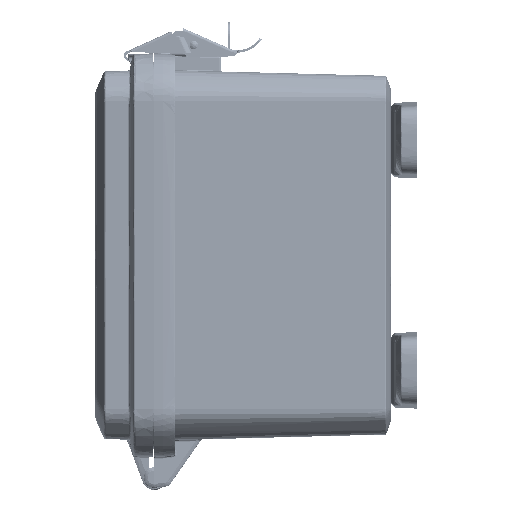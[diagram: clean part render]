
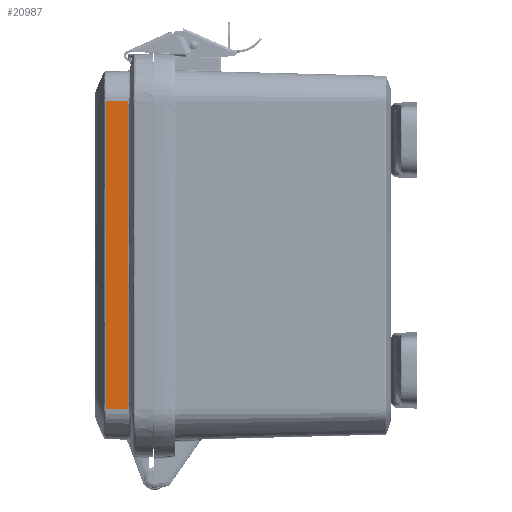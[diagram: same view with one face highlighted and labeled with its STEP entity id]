
A CAD part, left-side view. The second image highlights one B-rep face of the part: STEP entity #20987.
In plain terms, the highlighted planar face has unit normal (-0.999, 0.035, 0).
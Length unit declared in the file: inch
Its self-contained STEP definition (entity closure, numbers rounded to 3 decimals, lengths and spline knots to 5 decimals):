
#1761 = VERTEX_POINT ( 'NONE', #197396 ) ;
#4906 = CARTESIAN_POINT ( 'NONE',  ( -3.60805, 0.4853, -2.75782 ) ) ;
#7086 = CARTESIAN_POINT ( 'NONE',  ( -3.5929, 0.91937, -2.9771 ) ) ;
#8656 = B_SPLINE_CURVE_WITH_KNOTS ( 'NONE', 3,
 ( #36368, #17997, #153574, #55860, #100464, #71084, #54794, #203439, #68928, #38496, #69993, #34241, #118892, #88428, #84156, #202368 ),
 .UNSPECIFIED., .F., .F.,
 ( 4, 2, 2, 2, 2, 2, 2, 4 ),
 ( 0., 0.03821, 0.05731, 0.06686, 0.07164, 0.07283, 0.07403, 0.07641 ),
 .UNSPECIFIED. ) ;
#9936 = VERTEX_POINT ( 'NONE', #63339 ) ;
#11393 = PLANE ( 'NONE',  #187948 ) ;
#13152 = CARTESIAN_POINT ( 'NONE',  ( -3.5929, 0.91927, 1.75492 ) ) ;
#16360 = CARTESIAN_POINT ( 'NONE',  ( -3.59291, 0.91908, 3.00844 ) ) ;
#17997 = CARTESIAN_POINT ( 'NONE',  ( -3.60805, 0.48541, 0.50141 ) ) ;
#18845 = VECTOR ( 'NONE', #23575, 39.37008 ) ;
#19047 = CARTESIAN_POINT ( 'NONE',  ( -3.60805, 0.48546, -1.75498 ) ) ;
#20987 = ADVANCED_FACE ( 'NONE', ( #196849 ), #11393, .T. ) ;
#23371 = CARTESIAN_POINT ( 'NONE',  ( -3.5929, 0.91923, -2.78908 ) ) ;
#23575 = DIRECTION ( 'NONE',  ( -0.035, -0.999, 0. ) ) ;
#24404 = CARTESIAN_POINT ( 'NONE',  ( -3.5929, 0.9193, -2.89876 ) ) ;
#27145 = CARTESIAN_POINT ( 'NONE',  ( -3.5929, 0.9192, 0. ) ) ;
#28335 = CARTESIAN_POINT ( 'NONE',  ( -3.5929, 0.91918, 1.00281 ) ) ;
#29402 = CARTESIAN_POINT ( 'NONE',  ( -3.5929, 0.91923, 2.78908 ) ) ;
#29798 = DIRECTION ( 'NONE',  ( -0.999, 0.035, 0. ) ) ;
#30491 = CARTESIAN_POINT ( 'NONE',  ( -3.5929, 0.9193, 2.89876 ) ) ;
#34241 = CARTESIAN_POINT ( 'NONE',  ( -3.60804, 0.48557, 2.8831 ) ) ;
#35265 = CARTESIAN_POINT ( 'NONE',  ( -3.60804, 0.48557, -2.88318 ) ) ;
#35690 = EDGE_CURVE ( 'NONE', #9936, #168413, #173852, .T. ) ;
#36368 = CARTESIAN_POINT ( 'NONE',  ( -3.60805, 0.4854, 0. ) ) ;
#37402 = CARTESIAN_POINT ( 'NONE',  ( -3.60805, 0.48531, -1.00284 ) ) ;
#38496 = CARTESIAN_POINT ( 'NONE',  ( -3.60805, 0.48546, 2.83609 ) ) ;
#39610 = CARTESIAN_POINT ( 'NONE',  ( -3.5929, 0.91927, -1.75492 ) ) ;
#44418 = CARTESIAN_POINT ( 'NONE',  ( -3.60819, 0.48144, -3.00844 ) ) ;
#46077 = ORIENTED_EDGE ( 'NONE', *, *, #109779, .T. ) ;
#52621 = CARTESIAN_POINT ( 'NONE',  ( -3.60805, 0.48528, -2.38176 ) ) ;
#52921 = ORIENTED_EDGE ( 'NONE', *, *, #78741, .F. ) ;
#54794 = CARTESIAN_POINT ( 'NONE',  ( -3.60806, 0.48517, 2.50704 ) ) ;
#55860 = CARTESIAN_POINT ( 'NONE',  ( -3.60805, 0.48545, 1.75493 ) ) ;
#63339 = CARTESIAN_POINT ( 'NONE',  ( -3.59291, 0.91908, -3.00844 ) ) ;
#65165 = CARTESIAN_POINT ( 'NONE',  ( -3.5929, 0.91937, 2.9771 ) ) ;
#67830 = CARTESIAN_POINT ( 'NONE',  ( -3.60804, 0.48557, -2.89885 ) ) ;
#68635 = EDGE_LOOP ( 'NONE', ( #166287, #159612, #206953, #98120, #46077, #52921 ) ) ;
#68928 = CARTESIAN_POINT ( 'NONE',  ( -3.60805, 0.4853, 2.75774 ) ) ;
#69993 = CARTESIAN_POINT ( 'NONE',  ( -3.60805, 0.48549, 2.85176 ) ) ;
#70032 = CARTESIAN_POINT ( 'NONE',  ( -3.59289, 0.91948, -2.99277 ) ) ;
#70257 = CARTESIAN_POINT ( 'NONE',  ( -3.625, 0., 3.00844 ) ) ;
#71084 = CARTESIAN_POINT ( 'NONE',  ( -3.60805, 0.48528, 2.38169 ) ) ;
#74004 = DIRECTION ( 'NONE',  ( -0.035, -0.999, 0. ) ) ;
#78741 = EDGE_CURVE ( 'NONE', #97487, #1761, #136473, .T. ) ;
#81292 = B_SPLINE_CURVE_WITH_KNOTS ( 'NONE', 3,
 ( #16360, #132481, #65165, #94518, #30491, #29402, #114039, #81459, #111889, #178072, #13152, #28335, #160729, #95597 ),
 .UNSPECIFIED., .F., .F.,
 ( 4, 2, 1, 1, 2, 2, 2, 4 ),
 ( 0., 0.00119, 0.00239, 0.00478, 0.00955, 0.0191, 0.03821, 0.07641 ),
 .UNSPECIFIED. ) ;
#81459 = CARTESIAN_POINT ( 'NONE',  ( -3.5929, 0.91922, 2.50704 ) ) ;
#84156 = CARTESIAN_POINT ( 'NONE',  ( -3.60812, 0.48344, 2.97711 ) ) ;
#86246 = CARTESIAN_POINT ( 'NONE',  ( -3.60805, 0.48541, -0.50142 ) ) ;
#86312 = CARTESIAN_POINT ( 'NONE',  ( -3.5929, 0.91934, -2.94577 ) ) ;
#88428 = CARTESIAN_POINT ( 'NONE',  ( -3.60807, 0.48478, 2.94577 ) ) ;
#88464 = CARTESIAN_POINT ( 'NONE',  ( -3.5929, 0.91918, -1.00281 ) ) ;
#88702 = EDGE_CURVE ( 'NONE', #168413, #110491, #120455, .T. ) ;
#94518 = CARTESIAN_POINT ( 'NONE',  ( -3.5929, 0.91934, 2.94577 ) ) ;
#95597 = CARTESIAN_POINT ( 'NONE',  ( -3.5929, 0.9192, 0. ) ) ;
#97487 = VERTEX_POINT ( 'NONE', #144430 ) ;
#98120 = ORIENTED_EDGE ( 'NONE', *, *, #88702, .T. ) ;
#100464 = CARTESIAN_POINT ( 'NONE',  ( -3.60804, 0.48555, 2.00563 ) ) ;
#103724 = CARTESIAN_POINT ( 'NONE',  ( -3.5929, 0.91927, -2.38168 ) ) ;
#105863 = CARTESIAN_POINT ( 'NONE',  ( -3.5929, 0.91922, -2.69506 ) ) ;
#109779 = EDGE_CURVE ( 'NONE', #110491, #1761, #8656, .T. ) ;
#110138 = CARTESIAN_POINT ( 'NONE',  ( -3.625, 0., -3.00844 ) ) ;
#110491 = VERTEX_POINT ( 'NONE', #205365 ) ;
#111889 = CARTESIAN_POINT ( 'NONE',  ( -3.5929, 0.91927, 2.38168 ) ) ;
#114039 = CARTESIAN_POINT ( 'NONE',  ( -3.5929, 0.91922, 2.69506 ) ) ;
#118892 = CARTESIAN_POINT ( 'NONE',  ( -3.60804, 0.48558, 2.89876 ) ) ;
#120455 = B_SPLINE_CURVE_WITH_KNOTS ( 'NONE', 3,
 ( #154624, #122070, #150339, #67830, #35265, #121000, #200197, #4906, #186084, #185025, #52621, #167715, #19047, #37402, #86246, #135116 ),
 .UNSPECIFIED., .F., .F.,
 ( 4, 2, 2, 2, 2, 2, 2, 4 ),
 ( 0., 0.00239, 0.00358, 0.00478, 0.00955, 0.0191, 0.03821, 0.07641 ),
 .UNSPECIFIED. ) ;
#121000 = CARTESIAN_POINT ( 'NONE',  ( -3.60805, 0.48549, -2.85184 ) ) ;
#121672 = B_SPLINE_CURVE_WITH_KNOTS ( 'NONE', 3,
 ( #155740, #139459, #88464, #39610, #153617, #103724, #137328, #105863, #23371, #24404, #86312, #7086, #70032, #189344 ),
 .UNSPECIFIED., .F., .F.,
 ( 4, 2, 2, 2, 1, 1, 2, 4 ),
 ( 0., 0.03821, 0.05731, 0.06686, 0.07164, 0.07403, 0.07522, 0.07641 ),
 .UNSPECIFIED. ) ;
#122070 = CARTESIAN_POINT ( 'NONE',  ( -3.60812, 0.48344, -2.97716 ) ) ;
#126434 = EDGE_CURVE ( 'NONE', #97487, #209779, #81292, .T. ) ;
#129653 = DIRECTION ( 'NONE',  ( -0.035, -0.999, 0. ) ) ;
#132481 = CARTESIAN_POINT ( 'NONE',  ( -3.59289, 0.91948, 2.99277 ) ) ;
#135116 = CARTESIAN_POINT ( 'NONE',  ( -3.60805, 0.4854, 0. ) ) ;
#136473 = LINE ( 'NONE', #70257, #18845 ) ;
#137328 = CARTESIAN_POINT ( 'NONE',  ( -3.5929, 0.91922, -2.50704 ) ) ;
#139459 = CARTESIAN_POINT ( 'NONE',  ( -3.5929, 0.91921, -0.50141 ) ) ;
#140220 = CARTESIAN_POINT ( 'NONE',  ( -3.625, 0., -3.00844 ) ) ;
#144430 = CARTESIAN_POINT ( 'NONE',  ( -3.59291, 0.91908, 3.00844 ) ) ;
#150339 = CARTESIAN_POINT ( 'NONE',  ( -3.60807, 0.48478, -2.94585 ) ) ;
#153574 = CARTESIAN_POINT ( 'NONE',  ( -3.60805, 0.48531, 1.00282 ) ) ;
#153617 = CARTESIAN_POINT ( 'NONE',  ( -3.5929, 0.91933, -2.00563 ) ) ;
#154624 = CARTESIAN_POINT ( 'NONE',  ( -3.60819, 0.48144, -3.00844 ) ) ;
#155740 = CARTESIAN_POINT ( 'NONE',  ( -3.5929, 0.9192, 0. ) ) ;
#159612 = ORIENTED_EDGE ( 'NONE', *, *, #188031, .T. ) ;
#160729 = CARTESIAN_POINT ( 'NONE',  ( -3.5929, 0.91921, 0.50141 ) ) ;
#166287 = ORIENTED_EDGE ( 'NONE', *, *, #126434, .T. ) ;
#167715 = CARTESIAN_POINT ( 'NONE',  ( -3.60804, 0.48555, -2.00569 ) ) ;
#168413 = VERTEX_POINT ( 'NONE', #44418 ) ;
#173852 = LINE ( 'NONE', #140220, #180472 ) ;
#178072 = CARTESIAN_POINT ( 'NONE',  ( -3.5929, 0.91933, 2.00563 ) ) ;
#180472 = VECTOR ( 'NONE', #74004, 39.37008 ) ;
#185025 = CARTESIAN_POINT ( 'NONE',  ( -3.60806, 0.48517, -2.50711 ) ) ;
#186084 = CARTESIAN_POINT ( 'NONE',  ( -3.60806, 0.48524, -2.69514 ) ) ;
#187948 = AXIS2_PLACEMENT_3D ( 'NONE', #110138, #29798, #129653 ) ;
#188031 = EDGE_CURVE ( 'NONE', #209779, #9936, #121672, .T. ) ;
#189344 = CARTESIAN_POINT ( 'NONE',  ( -3.59291, 0.91908, -3.00844 ) ) ;
#196849 = FACE_OUTER_BOUND ( 'NONE', #68635, .T. ) ;
#197396 = CARTESIAN_POINT ( 'NONE',  ( -3.60819, 0.48144, 3.00844 ) ) ;
#200197 = CARTESIAN_POINT ( 'NONE',  ( -3.60805, 0.48546, -2.83617 ) ) ;
#202368 = CARTESIAN_POINT ( 'NONE',  ( -3.60819, 0.48144, 3.00844 ) ) ;
#203439 = CARTESIAN_POINT ( 'NONE',  ( -3.60806, 0.48524, 2.69507 ) ) ;
#205365 = CARTESIAN_POINT ( 'NONE',  ( -3.60805, 0.4854, 0. ) ) ;
#206953 = ORIENTED_EDGE ( 'NONE', *, *, #35690, .T. ) ;
#209779 = VERTEX_POINT ( 'NONE', #27145 ) ;
